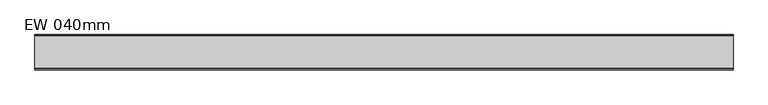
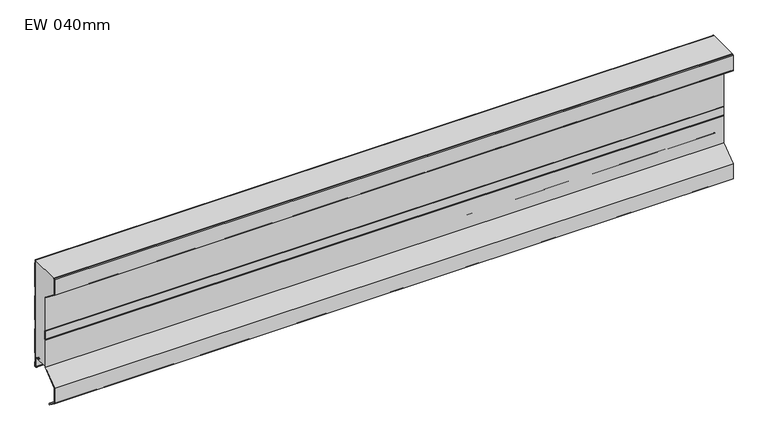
"""IFC4 building model written with IfcOpenShell, lengths in millimetres: plate geometry, KIP-MEX-KC-R19-CP-EW-SL : EW 040mm."""

import ifcopenshell
import ifcopenshell.guid

model = None  # the IFC model being written
_history = None  # IfcOwnerHistory: only IFC2X3 demands one
_inside = {}  # id of a spatial element -> (the spatial element, [elements in it])
_under = {}  # id of a project, library or spatial element -> (it, [spatial elements below it])
_declared = {}  # id of a project -> (the project, [libraries it declares])
_typed = {}  # id of a type object -> (the type object, [elements of that type])
_made_of = {}  # id of a material, layer set ... -> (it, [elements and type objects made of it])


def new_model(schema):
    """Start an empty IFC model of exactly this schema.

    Asked for "IFC4X3", IfcOpenShell would pick the latest addendum, in which some entities
    have other attributes; the version numbers below select the first issue.
    IFC2X3 requires an IfcOwnerHistory on every rooted entity: one is made here for all.
    """
    global model, _history
    if schema == "IFC4X3":
        model = ifcopenshell.file(schema_version=(4, 3, 0, 0))
    else:
        model = ifcopenshell.file(schema=schema)
    _inside.clear()
    _under.clear()
    _declared.clear()
    _typed.clear()
    _made_of.clear()
    _history = None
    if model.schema == "IFC2X3":
        org = make("IfcOrganization", Name="unknown")
        user = make(
            "IfcPersonAndOrganization",
            ThePerson=make("IfcPerson", FamilyName="unknown"),
            TheOrganization=org,
        )
        app = make(
            "IfcApplication",
            ApplicationDeveloper=org,
            Version="unknown",
            ApplicationFullName="unknown",
            ApplicationIdentifier="unknown",
        )
        _history = make(
            "IfcOwnerHistory",
            OwningUser=user,
            OwningApplication=app,
            ChangeAction="ADDED",
            CreationDate=0,
        )
    return model


def make(cls, **values):
    """One entity of the class cls with the attributes given. An attribute that is None is left unset."""
    return model.create_entity(
        cls, **{name: value for name, value in values.items() if value is not None}
    )


def rooted(cls, **values):
    """An entity with a GlobalId (a new one), such as an element, a storey or a relation."""
    return make(cls, GlobalId=ifcopenshell.guid.new(), OwnerHistory=_history, **values)


def si_unit(unit_type, name, prefix=None):
    """IfcSIUnit, for example si_unit("LENGTHUNIT", "METRE", prefix="MILLI")."""
    return make("IfcSIUnit", UnitType=unit_type, Prefix=prefix, Name=name)


def assignment(units):
    """IfcUnitAssignment: the units of a project."""
    return None if units is None else make("IfcUnitAssignment", Units=units)


def point(xyz):
    """IfcCartesianPoint."""
    return None if xyz is None else make("IfcCartesianPoint", Coordinates=xyz)


def direction(xyz):
    """IfcDirection."""
    return None if xyz is None else make("IfcDirection", DirectionRatios=xyz)


def frame(location, z_axis=None, x_axis=None):
    """IfcAxis2Placement3D, a coordinate frame: its origin and axes. An axis left out is left unset."""
    return make(
        "IfcAxis2Placement3D",
        Location=point(location),
        Axis=direction(z_axis),
        RefDirection=direction(x_axis),
    )


def frame_2d(location, x_axis=None):
    """IfcAxis2Placement2D, a coordinate frame in the plane: its origin and x axis."""
    return make(
        "IfcAxis2Placement2D", Location=point(location), RefDirection=direction(x_axis)
    )


def origin():
    """The frame at (0, 0, 0) with its axes left unset."""
    return frame((0.0, 0.0, 0.0))


def place(relative_to, where):
    """IfcLocalPlacement: puts the frame where relative to a parent placement (None: the world)."""
    return make(
        "IfcLocalPlacement", PlacementRelTo=relative_to, RelativePlacement=where
    )


def context(
    kind, dimensions, precision=None, world=None, true_north=None, identifier=None
):
    """IfcGeometricRepresentationContext, for example the 3D "Model" context."""
    return make(
        "IfcGeometricRepresentationContext",
        ContextIdentifier=identifier,
        ContextType=kind,
        CoordinateSpaceDimension=dimensions,
        Precision=precision,
        WorldCoordinateSystem=world,
        TrueNorth=true_north,
    )


def project(units=None, contexts=None):
    """IfcProject with its units and contexts."""
    return rooted(
        "IfcProject",
        Name="project",
        RepresentationContexts=contexts,
        UnitsInContext=assignment(units),
    )


def spatial(cls, under=None, at=None, **own):
    """A site, building, storey or space (cls), placed at a placement, below another one or the project."""
    s = rooted(cls, ObjectPlacement=at, **own)
    if under is not None:
        _under.setdefault(under.id(), (under, []))[1].append(s)
    return s


def polyline(points):
    """IfcPolyline through the points."""
    return make("IfcPolyline", Points=[point(p) for p in points])


def circle_curve(where, radius):
    """IfcCircle in the frame where."""
    return make("IfcCircle", Position=where, Radius=radius)


def trimmed(basis, trim1, trim2, sense, master):
    """IfcTrimmedCurve: the piece of a basis curve between two trims."""
    return make(
        "IfcTrimmedCurve",
        BasisCurve=basis,
        Trim1=trim1,
        Trim2=trim2,
        SenseAgreement=sense,
        MasterRepresentation=master,
    )


def segment(curve, same_sense, transition):
    """IfcCompositeCurveSegment."""
    return make(
        "IfcCompositeCurveSegment",
        Transition=transition,
        SameSense=same_sense,
        ParentCurve=curve,
    )


def composite_curve(segments, self_intersect=None):
    """IfcCompositeCurve: segments joined end to end."""
    return make("IfcCompositeCurve", Segments=segments, SelfIntersect=self_intersect)


def outline(outer, holes=None, kind="AREA"):
    """IfcArbitraryClosedProfileDef: a profile drawn as a closed curve; with holes, ...WithVoids."""
    if holes is None:
        return make("IfcArbitraryClosedProfileDef", ProfileType=kind, OuterCurve=outer)
    return make(
        "IfcArbitraryProfileDefWithVoids",
        ProfileType=kind,
        OuterCurve=outer,
        InnerCurves=holes,
    )


def extrude(swept, where, along, depth):
    """IfcExtrudedAreaSolid: the profile swept, set in the frame where, extruded along a direction by depth."""
    return make(
        "IfcExtrudedAreaSolid",
        SweptArea=swept,
        Position=where,
        ExtrudedDirection=direction(along),
        Depth=depth,
    )


def shape(context_of_items, identifier, shape_type, items):
    """IfcShapeRepresentation: the items that make up one representation, for example the "Body"."""
    return make(
        "IfcShapeRepresentation",
        ContextOfItems=context_of_items,
        RepresentationIdentifier=identifier,
        RepresentationType=shape_type,
        Items=items,
    )


def source(mapping_origin, context_of_items, identifier, shape_type, items):
    """IfcRepresentationMap: a shape defined once, which mapped items show again and again."""
    return make(
        "IfcRepresentationMap",
        MappingOrigin=mapping_origin,
        MappedRepresentation=shape(context_of_items, identifier, shape_type, items),
    )


def transform(
    local_origin,
    x_axis=None,
    y_axis=None,
    z_axis=None,
    scale=None,
    scale2=None,
    scale3=None,
    uniform=True,
):
    """IfcCartesianTransformationOperator3D, or its non-uniform kind. x_axis, y_axis, z_axis: its Axis1, 2, 3."""
    if uniform:
        return make(
            "IfcCartesianTransformationOperator3D",
            Axis1=direction(x_axis),
            Axis2=direction(y_axis),
            LocalOrigin=point(local_origin),
            Scale=scale,
            Axis3=direction(z_axis),
        )
    return make(
        "IfcCartesianTransformationOperator3DnonUniform",
        Axis1=direction(x_axis),
        Axis2=direction(y_axis),
        LocalOrigin=point(local_origin),
        Scale=scale,
        Axis3=direction(z_axis),
        Scale2=scale2,
        Scale3=scale3,
    )


def mapped(mapping_source, mapping_target):
    """IfcMappedItem: shows the shape of a source again, moved by a transform."""
    return make(
        "IfcMappedItem", MappingSource=mapping_source, MappingTarget=mapping_target
    )


def made_of(thing, what):
    """Note that an element or type object is made of a material, layer set ...; save() writes the relation."""
    if what is not None:
        _made_of.setdefault(what.id(), (what, []))[1].append(thing)
    return thing


def element(
    cls,
    number,
    at=None,
    inside=None,
    cuts=None,
    type_object=None,
    material=None,
    context=None,
    identifier="Body",
    shape_type=None,
    held_by="IfcProductDefinitionShape",
    body=None,
    shapes=None,
    **own,
):
    """One element of the class cls, such as IfcWall. Its Tag is "e" and its number.

    at: its placement. inside: the storey or other place that contains it. cuts: it is an
    opening in that element (IfcRelVoidsElement). A single representation is given by context,
    identifier, shape_type and body (its items); several are given by shapes. held_by: the class
    of the entity that holds the representations. save() writes the other relations.
    """
    e = rooted(cls, Tag="e%d" % number, ObjectPlacement=at, **own)
    if body is not None:
        shapes = [shape(context, identifier, shape_type, body)]
    if shapes is not None:
        e.Representation = make(held_by, Representations=shapes)
    if inside is not None:
        _inside.setdefault(inside.id(), (inside, []))[1].append(e)
    if cuts is not None:
        rooted(
            "IfcRelVoidsElement", RelatingBuildingElement=cuts, RelatedOpeningElement=e
        )
    if type_object is not None:
        _typed.setdefault(type_object.id(), (type_object, []))[1].append(e)
    return made_of(e, material)


def aggregate(whole, parts):
    """IfcRelAggregates: a whole, such as a stair, and the parts it consists of."""
    return rooted("IfcRelAggregates", RelatingObject=whole, RelatedObjects=parts)


def save(model, path):
    """Write the relations noted so far, then the file.

    IfcRelAggregates (storeys below a building ...), IfcRelContainedInSpatialStructure (elements
    in a storey), IfcRelDefinesByType, IfcRelAssociatesMaterial and IfcRelDeclares: one each for
    every whole, place, type object, material and project.
    """
    for whole, parts in _under.values():
        aggregate(whole, parts)
    for where, things in _inside.values():
        rooted(
            "IfcRelContainedInSpatialStructure",
            RelatedElements=things,
            RelatingStructure=where,
        )
    for kind, things in _typed.values():
        rooted("IfcRelDefinesByType", RelatedObjects=things, RelatingType=kind)
    for what, things in _made_of.values():
        rooted("IfcRelAssociatesMaterial", RelatedObjects=things, RelatingMaterial=what)
    for by, libraries in _declared.values():
        rooted("IfcRelDeclares", RelatingContext=by, RelatedDefinitions=libraries)
    model.write(path)


def ew_040mm_862d915e(model_context):
    return source(origin(), model_context, "Body", "SweptSolid", [
        extrude(outline(composite_curve([segment(polyline([(-2.2002307, 217.6192114), (-2.2002307, 224.3718713), (-1.2002307, 224.3718713), (-1.2002307, 217.9920919), (-0.3417885, 217.0010442)]), True, "CONTINUOUS"), segment(trimmed(circle_curve(frame_2d((-1.3999972, 216.0844273)), 1.3999972), [point((-0.3417885, 217.0010442))], [point((0.0, 216.0844273))], False, "CARTESIAN"), True, "CONTINUOUS"), segment(polyline([(0.0, 216.0844273), (0.0, 162.3293142)]), True, "CONTINUOUS"), segment(trimmed(circle_curve(frame_2d((-1.3999972, 162.3293142)), 1.3999972), [point((0.0, 162.3293142))], [point((-0.3417885, 161.4126973))], False, "CARTESIAN"), True, "CONTINUOUS"), segment(polyline([(-0.3417885, 161.4126973), (-1.2002307, 160.4216497), (-1.2002307, 141.7922443), (-0.3417885, 140.8011966)]), True, "CONTINUOUS"), segment(trimmed(circle_curve(frame_2d((-1.3999972, 139.8845797)), 1.3999972), [point((-0.3417885, 140.8011966))], [point((0.0, 139.8845797))], False, "CARTESIAN"), True, "CONTINUOUS"), segment(polyline([(0.0, 139.8845797), (0.0, 86.1294666)]), True, "CONTINUOUS"), segment(trimmed(circle_curve(frame_2d((-1.3999972, 86.1294666)), 1.3999972), [point((0.0, 86.1294666))], [point((-0.3417885, 85.2128497))], False, "CARTESIAN"), True, "CONTINUOUS"), segment(polyline([(-0.3417885, 85.2128497), (-1.2002307, 84.2218021), (-1.2002307, 65.5923967), (-0.3417885, 64.601349)]), True, "CONTINUOUS"), segment(trimmed(circle_curve(frame_2d((-1.3999972, 63.6847321)), 1.3999972), [point((-0.3417885, 64.601349))], [point((0.0, 63.6847321))], False, "CARTESIAN"), True, "CONTINUOUS"), segment(polyline([(0.0, 63.6847321), (0.0, 9.929619)]), True, "CONTINUOUS"), segment(trimmed(circle_curve(frame_2d((-1.3999972, 9.929619)), 1.3999972), [point((0.0, 9.929619))], [point((-0.3417885, 9.0130021))], False, "CARTESIAN"), True, "CONTINUOUS"), segment(polyline([(-0.3417885, 9.0130021), (-1.2002307, 8.0219545), (-1.2002307, -10.6074509), (-0.3417885, -11.5984986)]), True, "CONTINUOUS"), segment(trimmed(circle_curve(frame_2d((-1.3999972, -12.5151155)), 1.3999972), [point((-0.3417885, -11.5984986))], [point((0.0, -12.5151155))], False, "CARTESIAN"), True, "CONTINUOUS"), segment(polyline([(0.0, -12.5151155), (0.0, -20.3675812)]), True, "CONTINUOUS"), segment(trimmed(circle_curve(frame_2d((-1.4999795, -20.3675812)), 1.4999795), [point((0.0, -20.3675812))], [point((-1.4999795, -21.8675607))], False, "CARTESIAN"), True, "CONTINUOUS"), segment(polyline([(-1.4999795, -21.8675607), (-2.4999032, -21.8675607)]), True, "CONTINUOUS"), segment(trimmed(circle_curve(frame_2d((-2.4999032, -18.3676454)), 3.4999153), [point((-2.4999032, -21.8675607))], [point((-5.9998185, -18.3676454))], False, "CARTESIAN"), True, "CONTINUOUS"), segment(polyline([(-5.9998185, -18.3676454), (-5.9998185, -0.3670479)]), True, "CONTINUOUS"), segment(trimmed(circle_curve(frame_2d((-8.0001747, -0.3670479)), 2.0003562), [point((-5.9998185, -0.3670479))], [point((-7.9986755, 1.6333077))], True, "CARTESIAN"), True, "CONTINUOUS"), segment(polyline([(-7.9986755, 1.6333077), (-11.5958583, 1.6333077)]), True, "CONTINUOUS"), segment(trimmed(circle_curve(frame_2d((-11.5943838, 4.1340836)), 2.5007763), [point((-11.5958583, 1.6333077))], [point((-14.0574976, 3.7017037))], False, "CARTESIAN"), True, "CONTINUOUS"), segment(polyline([(-14.0574976, 3.7017037), (-14.6793261, 7.2440392), (-13.694386, 7.4169375), (-13.0725576, 3.8746027)]), True, "CONTINUOUS"), segment(trimmed(circle_curve(frame_2d((-11.5943841, 4.1340842)), 1.5007756), [point((-13.0725576, 3.8746027))], [point((-11.5943841, 2.6333086))], True, "CARTESIAN"), True, "CONTINUOUS"), segment(polyline([(-11.5943841, 2.6333086), (-7.9980709, 2.6333089)]), True, "CONTINUOUS"), segment(trimmed(circle_curve(frame_2d((-8.0001719, -0.3670493)), 3.0003589), [point((-7.9980709, 2.6333089))], [point((-4.999813, -0.3670493))], False, "CARTESIAN"), True, "CONTINUOUS"), segment(polyline([(-4.999813, -0.3670493), (-4.999813, -18.3676343)]), True, "CONTINUOUS"), segment(trimmed(circle_curve(frame_2d((-2.4999087, -18.3676343)), 2.4999043), [point((-4.999813, -18.3676343))], [point((-2.4999087, -20.8675386))], True, "CARTESIAN"), True, "CONTINUOUS"), segment(polyline([(-2.4999087, -20.8675386), (-0.9999889, -20.8675386), (-0.9999889, -12.3659771), (-2.2002307, -10.9803314), (-2.2002307, 8.3948349), (-1.0, 9.7804679), (-1.0, 63.8338833), (-2.2002307, 65.2195162), (-2.2002307, 84.5946825), (-1.0, 85.9803155), (-1.0, 140.0337309), (-2.2002307, 141.4193638), (-2.2002307, 160.7945301), (-1.0, 162.1801631), (-1.0, 216.2335785), (-2.2002307, 217.6192114)]), True, "CONTINUOUS")], self_intersect=False)), frame((-740.0, 0.0, 0.0), z_axis=(1.0, 0.0, 0.0), x_axis=(0.0, 1.0, 0.0)), (0.0, 0.0, 1.0), 1480.0),
        extrude(outline(composite_curve([segment(trimmed(circle_curve(frame_2d((-55.7875816, -75.4831487)), 1.5000016), [point((-55.338162, -74.0520558))], [point((-56.714315, -76.6626274))], False, "CARTESIAN"), True, "CONTINUOUS"), segment(polyline([(-56.714315, -76.6626274), (-75.000038, -62.2952701), (-75.000038, -27.2952321), (-40.0, 0.2047977), (-40.0, 62.4737665), (-38.9999989, 63.8880496), (-38.9999989, 82.4599218), (-40.0, 83.8742048), (-40.0, 160.2049713), (-75.000038, 187.7050012), (-75.000038, 222.7050392), (-72.8786153, 224.3718713), (-71.2600249, 224.3718713), (-74.000038, 222.2190039), (-74.000038, 188.1910365), (-39.0, 160.6910066), (-39.0, 84.1920296), (-37.9999989, 82.7777465), (-37.9999989, 63.5702249), (-39.0, 62.1559418), (-39.0, -0.2812376), (-74.000038, -27.7812674), (-74.000038, -61.8092349), (-59.3105941, -73.3509437), (-55.338162, -74.0520558)]), True, "CONTINUOUS")], self_intersect=False)), frame((-740.0, 0.0, 0.0), z_axis=(1.0, 0.0, 0.0), x_axis=(0.0, 1.0, 0.0)), (0.0, 0.0, 1.0), 1480.0),
        extrude(outline(composite_curve([segment(polyline([(-74.000038, 222.2190039), (-71.2600249, 224.3718713), (-2.2002307, 224.3718713), (-2.2002307, 217.6192115), (-1.0, 216.2335785), (-1.0, 162.1801631), (-2.2002307, 160.7945302), (-2.2002307, 141.4193639), (-1.0, 140.0337309), (-1.0, 85.9803155), (-2.2002307, 84.5946826), (-2.2002307, 65.2195163), (-1.0, 63.8338833), (-1.0, 9.7804679), (-2.2002307, 8.394835), (-2.2002307, -10.9803313), (-0.9999916, -12.365974), (-0.9999916, -20.8675386), (-2.4999198, -20.8675386)]), True, "CONTINUOUS"), segment(trimmed(circle_curve(frame_2d((-2.4999198, -18.3676343)), 2.4999043), [point((-2.4999198, -20.8675386))], [point((-4.9998241, -18.3676343))], False, "CARTESIAN"), True, "CONTINUOUS"), segment(polyline([(-4.9998241, -18.3676343), (-4.9998241, -0.3670493)]), True, "CONTINUOUS"), segment(trimmed(circle_curve(frame_2d((-8.0001829, -0.3670493)), 3.0003589), [point((-4.9998241, -0.3670493))], [point((-7.998082, 2.6333088))], True, "CARTESIAN"), True, "CONTINUOUS"), segment(polyline([(-7.998082, 2.6333088), (-11.5943952, 2.6333088)]), True, "CONTINUOUS"), segment(trimmed(circle_curve(frame_2d((-11.5943952, 4.1340843)), 1.5007755), [point((-11.5943952, 2.6333088))], [point((-13.0725686, 3.8746028))], False, "CARTESIAN"), True, "CONTINUOUS"), segment(polyline([(-13.0725686, 3.8746028), (-13.6943971, 7.4169376), (-14.6793372, 7.2440392), (-14.0575086, 3.7017037)]), True, "CONTINUOUS"), segment(trimmed(circle_curve(frame_2d((-11.5943948, 4.1340836)), 2.5007762), [point((-14.0575086, 3.7017037))], [point((-11.5958694, 1.6333077))], True, "CARTESIAN"), True, "CONTINUOUS"), segment(polyline([(-11.5958694, 1.6333077), (-39.0, 1.6333077), (-39.0, 62.1559418), (-37.9999989, 63.5702249), (-37.9999989, 82.7777465), (-39.0, 84.1920296), (-39.0, 160.6910066), (-74.000038, 188.1910365), (-74.000038, 222.2190039)]), True, "CONTINUOUS")], self_intersect=False)), frame((-740.0, 0.0, 0.0), z_axis=(1.0, 0.0, 0.0), x_axis=(0.0, 1.0, 0.0)), (0.0, 0.0, 1.0), 1480.0),
    ])


if __name__ == "__main__":
    model = new_model("IFC4")
    model_context = context("Model", 3, world=origin())
    ifc_project = project(units=[si_unit("LENGTHUNIT", "METRE", prefix="MILLI")], contexts=[model_context])
    site = spatial("IfcSite", under=ifc_project)
    building = spatial("IfcBuilding", under=site)
    placement = place(None, origin())
    ew_040mm_shape = ew_040mm_862d915e(model_context)
    element("IfcPlate", 1, ObjectType="KIP-MEX-KC-R19-CP-EW-SL : EW 040mm", at=placement, inside=building, context=model_context, shape_type="MappedRepresentation", body=[
        mapped(ew_040mm_shape, transform((0.0, 0.0, 0.0), x_axis=(1.0, 0.0, 0.0), y_axis=(0.0, 1.0, 0.0), z_axis=(0.0, 0.0, 1.0))),
    ])
    save(model, "model.ifc")
